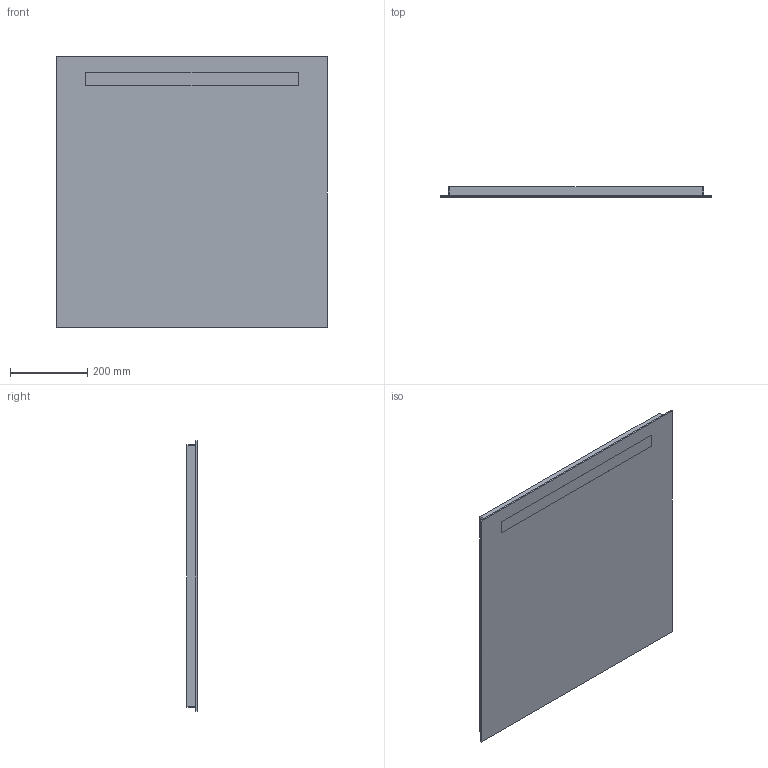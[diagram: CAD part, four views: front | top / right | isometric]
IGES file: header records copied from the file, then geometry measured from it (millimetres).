
Global section: file name: 502806; native system: Autodesk Inventor 2021; preprocessor: unknown; author: JANAN; date: 20221202.151027; units: millimetre
Bounding box: 700 x 26 x 700 mm (x, y, z)
Volume: 11829493.9 mm3; surface area: 1948753.9 mm2
Topology: 2 solids, 2 shells, 29 faces, 68 edges, 48 vertices
Faces by surface type: bspline 29
